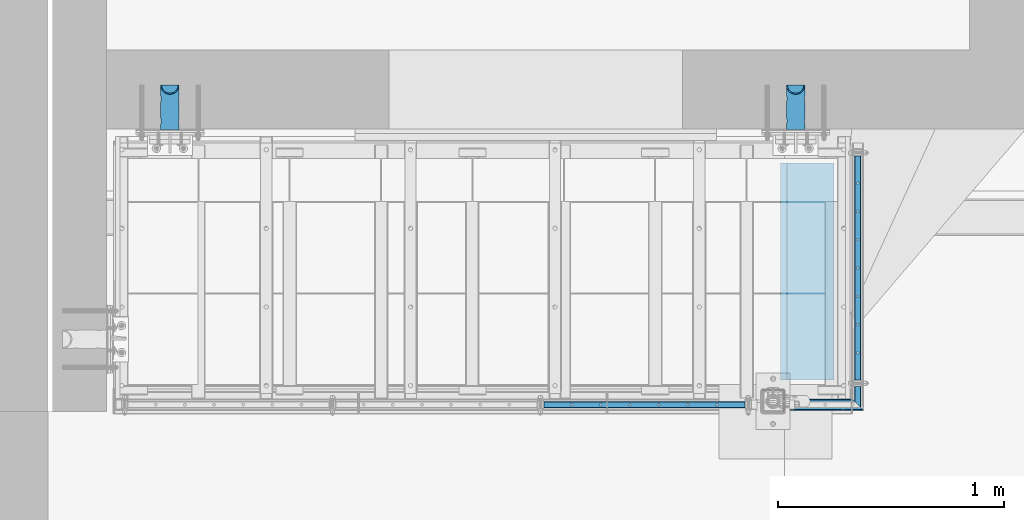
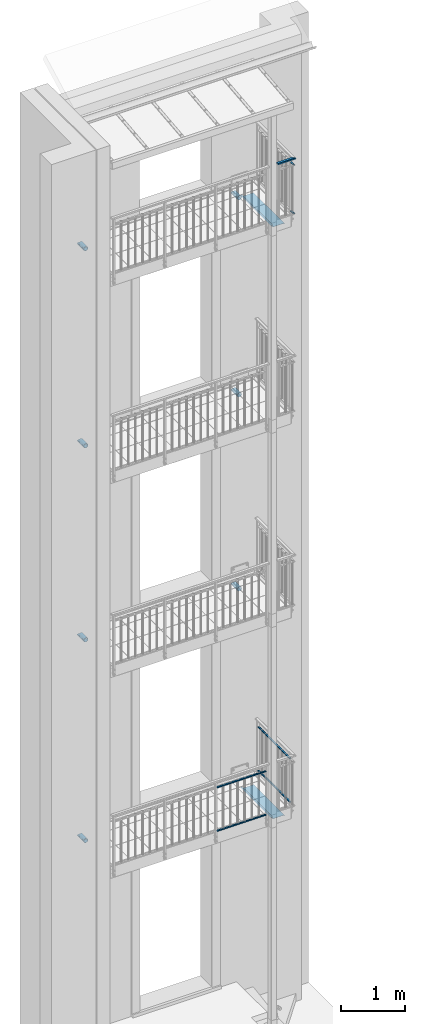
# One storey, part 53 of 162: 16 beams, 64 openings.
"""IFC2X3 building model written with IfcOpenShell, lengths in millimetres."""

from ifc_helpers import new_model, entity, si_unit, converted_unit, frame, frame_2d, origin, origin_with_axes, origin_2d, origin_2d_with_axis, place, context, project, spatial, polyline, hollow_rectangle, circle, hollow_circle, outline, extrude, clip, halfspace, material, element, save


model = new_model("IFC2X3")

# Units and contexts
model_context = context("Model", 3, precision=1e-09, world=origin_with_axes())
ifc_project = project(units=[si_unit("LENGTHUNIT", "METRE", prefix="MILLI"), si_unit("AREAUNIT", "SQUARE_METRE"), si_unit("VOLUMEUNIT", "CUBIC_METRE"), converted_unit("PLANEANGLEUNIT", "DEGREE", entity("IfcPlaneAngleMeasure", 0.01745329), si_unit("PLANEANGLEUNIT", "RADIAN"), dimensions=[0, 0, 0, 0, 0, 0, 0])], contexts=[model_context])

# Site, building, storey
site_placement = place(None, origin_with_axes())
site = spatial("IfcSite", under=ifc_project, at=site_placement, Name="Hermannstra?e 1a, 60318 Frankfurt", CompositionType="ELEMENT")
building_placement = place(site_placement, origin_with_axes())
building = spatial("IfcBuilding", under=site, at=building_placement, Name="Struktur 1", CompositionType="ELEMENT")
storey_placement = place(building_placement, origin_with_axes())
storey = spatial("IfcBuildingStorey", under=building, at=storey_placement, Name="Default Storey", CompositionType="ELEMENT", Elevation=0.0)

# Beam, opening
ifc_material_1 = material(Name="S235JR")
beam_1_placement = place(None, frame((5889.540421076, 1515.609373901, 16321.999), z_axis=(-1.0, 0.0, 0.0), x_axis=(0.0, 0.0, -1.0)))
beam_1 = element("IfcBeam", 1, at=beam_1_placement, inside=storey, material=ifc_material_1, Name="-", ObjectType="-", context=model_context, shape_type="Clipping", body=[
    clip(extrude(hollow_rectangle(XDim=30.0, YDim=50.0, WallThickness=3.0, InnerFilletRadius=3.0, OuterFilletRadius=6.0, at=origin_2d()), origin(), (0.0, 0.0, 1.0), 341.231056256), halfspace(frame((16321.999, -2166.349288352, 2207.581758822), z_axis=(0.0, 0.707106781, 0.707106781), x_axis=(0.0, 0.707106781, -0.707106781)), True)),
])
opening_1_placement = place(beam_1_placement, frame((11.5, 0.0, 306.231056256), z_axis=(1.0, 0.0, 0.0), x_axis=(0.0, 0.0, 1.0)))
element("IfcOpeningElement", 2, at=opening_1_placement, cuts=beam_1, ObjectType="Opening", context=model_context, shape_type="SweptSolid", body=[
    extrude(circle(Radius=5.001, at=frame_2d((5.0, 0.0), x_axis=(1.0, 0.0))), origin(), (0.0, 0.0, 1.0), 4.0),
])

beam_2_placement = place(None, frame((5848.30936482, 1490.114276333, 15266.999), z_axis=(0.0, 1.0, 0.0), x_axis=(0.0, 0.0, -1.0)))
beam_2 = element("IfcBeam", 3, at=beam_2_placement, inside=storey, material=ifc_material_1, Name="-", ObjectType="-", context=model_context, shape_type="Clipping", body=[
    clip(extrude(hollow_rectangle(XDim=20.0, YDim=30.0, WallThickness=2.0, InnerFilletRadius=2.0, OuterFilletRadius=4.0, at=origin_2d()), origin(), (0.0, 0.0, 1.0), 105.495097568), halfspace(frame((15266.999, 2166.349288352, 2191.845800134), z_axis=(0.0, -0.707106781, 0.707106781), x_axis=(0.0, 0.707106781, 0.707106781)), True)),
])
opening_2_placement = place(beam_2_placement, frame((0.0, -12.5, 10.496511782), z_axis=(0.0, -1.0, 0.0), x_axis=(0.0, 0.0, 1.0)))
element("IfcOpeningElement", 4, at=opening_2_placement, cuts=beam_2, ObjectType="Opening", context=model_context, shape_type="SweptSolid", body=[
    extrude(circle(Radius=4.001, at=frame_2d((10.0, 0.0), x_axis=(1.0, 0.0))), origin(), (0.0, 0.0, 1.0), 3.0),
])

beam_3_placement = place(None, frame((5848.30936482, 1490.114276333, 16196.999), z_axis=(0.0, 1.0, 0.0), x_axis=(0.0, 0.0, -1.0)))
beam_3 = element("IfcBeam", 5, at=beam_3_placement, inside=storey, material=ifc_material_1, Name="-", ObjectType="-", context=model_context, shape_type="Clipping", body=[
    clip(extrude(hollow_rectangle(XDim=20.0, YDim=30.0, WallThickness=2.0, InnerFilletRadius=2.0, OuterFilletRadius=4.0, at=origin_2d()), origin(), (0.0, 0.0, 1.0), 105.495097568), halfspace(frame((16196.999, 2166.349288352, 2191.845800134), z_axis=(0.0, -0.707106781, 0.707106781), x_axis=(0.0, 0.707106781, 0.707106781)), True)),
])
opening_3_placement = place(beam_3_placement, frame((0.0, -12.5, 10.495097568), z_axis=(0.0, -1.0, 0.0), x_axis=(0.0, 0.0, 1.0)))
element("IfcOpeningElement", 6, at=opening_3_placement, cuts=beam_3, ObjectType="Opening", context=model_context, shape_type="SweptSolid", body=[
    extrude(circle(Radius=4.001, at=frame_2d((10.0, 0.0), x_axis=(1.0, 0.0))), origin(), (0.0, 0.0, 1.0), 3.0),
])

# Beam
ifc_material_2 = material(Name="Alu")
beam_4_placement = place(None, frame((5742.80936482, 1625.609373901, 15033.999), z_axis=(0.0, -1.0, 0.0), x_axis=(1.0, 0.0, 0.0)))
element("IfcBeam", 7, at=beam_4_placement, inside=storey, material=ifc_material_2, Name="-", ObjectType="-", context=model_context, shape_type="SweptSolid", body=[
    extrude(outline(polyline([(-235.449159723, 49.122617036), (-210.0, 52.699263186), (-210.0, 18.0), (-2.0, 18.0), (-2.0, 0.0), (0.0, 0.0), (0.0, 20.0), (-208.0, 20.0), (-208.0, 55.0), (-235.727505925, 51.103153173), (-235.449159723, 49.122617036)])), origin(), (0.0, 0.0, -1.0), 960.0),
])

# Beam, openings
beam_5_placement = place(None, frame((5573.30936482, 2730.609373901, 11169.999), z_axis=(0.0, 1.0, 0.0), x_axis=(0.0, 0.0, 1.0)))
beam_5 = element("IfcBeam", 8, at=beam_5_placement, inside=storey, material=ifc_material_1, Name="-", ObjectType="-", context=model_context, shape_type="SweptSolid", body=[
    extrude(hollow_circle(Radius=41.25, WallThickness=5.0, at=origin_2d()), origin(), (0.0, 0.0, 1.0), 200.0),
])
opening_4_placement = place(beam_5_placement, frame((-36.368270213, -141.35, 236.366855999), z_axis=(0.0, -1.0, 0.0), x_axis=(0.707106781, 0.0, -0.707106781)))
element("IfcOpeningElement", 9, at=opening_4_placement, cuts=beam_5, ObjectType="Opening", context=model_context, shape_type="SweptSolid", body=[
    extrude(outline(polyline([(0.0, 0.0), (179.585201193, 0.0), (64.987133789, 114.598067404), (0.0, 0.0)])), origin(), (0.0, 0.0, -1.0), 282.7),
])
opening_5_placement = place(beam_5_placement, frame((0.0, -32.727655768, 100.0), z_axis=(0.0, -1.0, 0.0), x_axis=(0.0, 0.0, -1.0)))
element("IfcOpeningElement", 10, at=opening_5_placement, cuts=beam_5, ObjectType="Opening", context=model_context, shape_type="SweptSolid", body=[
    extrude(circle(Radius=15.001, at=frame_2d((60.0, 0.0), x_axis=(1.0, 0.0))), origin(), (0.0, 0.0, 1.0), 9.022344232),
])
opening_6_placement = place(beam_5_placement, frame((0.0, -32.727655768, 100.0), z_axis=(0.0, -1.0, 0.0), x_axis=(0.0, 0.0, -1.0)))
element("IfcOpeningElement", 11, at=opening_6_placement, cuts=beam_5, ObjectType="Opening", context=model_context, shape_type="SweptSolid", body=[
    extrude(circle(Radius=15.001, at=frame_2d((-40.0, 0.0), x_axis=(1.0, 0.0))), origin(), (0.0, 0.0, 1.0), 9.022344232),
])
opening_7_placement = place(beam_5_placement, frame((0.0, 32.727655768, 55.001), z_axis=(0.0, -1.0, 0.0), x_axis=(1.0, 0.0, 0.0)))
element("IfcOpeningElement", 12, at=opening_7_placement, cuts=beam_5, ObjectType="Opening", context=model_context, shape_type="SweptSolid", body=[
    extrude(circle(Radius=15.001, at=frame_2d((0.0, -15.001), x_axis=(1.0, 0.0))), origin(), (0.0, 0.0, -1.0), 9.022344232),
])
opening_8_placement = place(beam_5_placement, frame((0.0, 32.727655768, 155.001), z_axis=(0.0, -1.0, 0.0), x_axis=(1.0, 0.0, 0.0)))
element("IfcOpeningElement", 13, at=opening_8_placement, cuts=beam_5, ObjectType="Opening", context=model_context, shape_type="SweptSolid", body=[
    extrude(circle(Radius=15.001, at=frame_2d((0.0, -15.001), x_axis=(1.0, 0.0))), origin(), (0.0, 0.0, -1.0), 9.022344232),
])

beam_6_placement = place(None, frame((2803.310071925, 2730.610081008, 14926.999), z_axis=(0.0, 1.0, 0.0), x_axis=(0.0, 0.0, 1.0)))
beam_6 = element("IfcBeam", 14, at=beam_6_placement, inside=storey, material=ifc_material_1, Name="-", ObjectType="-", context=model_context, shape_type="SweptSolid", body=[
    extrude(hollow_circle(Radius=41.25, WallThickness=5.0, at=origin_2d()), origin(), (0.0, 0.0, 1.0), 200.0),
])
opening_9_placement = place(beam_6_placement, frame((-36.368270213, -141.35, 236.366855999), z_axis=(0.0, -1.0, 0.0), x_axis=(0.707106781, 0.0, -0.707106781)))
element("IfcOpeningElement", 15, at=opening_9_placement, cuts=beam_6, ObjectType="Opening", context=model_context, shape_type="SweptSolid", body=[
    extrude(outline(polyline([(0.0, 0.0), (179.585201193, 0.0), (64.987133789, 114.598067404), (0.0, 0.0)])), origin(), (0.0, 0.0, -1.0), 282.7),
])
opening_10_placement = place(beam_6_placement, frame((0.0, -32.727655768, 100.0), z_axis=(0.0, -1.0, 0.0), x_axis=(0.0, 0.0, -1.0)))
element("IfcOpeningElement", 16, at=opening_10_placement, cuts=beam_6, ObjectType="Opening", context=model_context, shape_type="SweptSolid", body=[
    extrude(circle(Radius=15.001, at=frame_2d((60.0, 0.0), x_axis=(1.0, 0.0))), origin(), (0.0, 0.0, 1.0), 9.022344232),
])
opening_11_placement = place(beam_6_placement, frame((0.0, -32.727655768, 100.0), z_axis=(0.0, -1.0, 0.0), x_axis=(0.0, 0.0, -1.0)))
element("IfcOpeningElement", 17, at=opening_11_placement, cuts=beam_6, ObjectType="Opening", context=model_context, shape_type="SweptSolid", body=[
    extrude(circle(Radius=15.001, at=frame_2d((-40.0, 0.0), x_axis=(1.0, 0.0))), origin(), (0.0, 0.0, 1.0), 9.022344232),
])
opening_12_placement = place(beam_6_placement, frame((0.0, 32.727655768, 55.001), z_axis=(0.0, -1.0, 0.0), x_axis=(1.0, 0.0, 0.0)))
element("IfcOpeningElement", 18, at=opening_12_placement, cuts=beam_6, ObjectType="Opening", context=model_context, shape_type="SweptSolid", body=[
    extrude(circle(Radius=15.001, at=frame_2d((0.0, -15.001), x_axis=(1.0, 0.0))), origin(), (0.0, 0.0, -1.0), 9.022344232),
])
opening_13_placement = place(beam_6_placement, frame((0.0, 32.727655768, 155.001), z_axis=(0.0, -1.0, 0.0), x_axis=(1.0, 0.0, 0.0)))
element("IfcOpeningElement", 19, at=opening_13_placement, cuts=beam_6, ObjectType="Opening", context=model_context, shape_type="SweptSolid", body=[
    extrude(circle(Radius=15.001, at=frame_2d((0.0, -15.001), x_axis=(1.0, 0.0))), origin(), (0.0, 0.0, -1.0), 9.022344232),
])

beam_7_placement = place(None, frame((5573.310071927, 2730.610081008, 14926.999), z_axis=(0.0, 1.0, 0.0), x_axis=(0.0, 0.0, 1.0)))
beam_7 = element("IfcBeam", 20, at=beam_7_placement, inside=storey, material=ifc_material_1, Name="-", ObjectType="-", context=model_context, shape_type="SweptSolid", body=[
    extrude(hollow_circle(Radius=41.25, WallThickness=5.0, at=origin_2d()), origin(), (0.0, 0.0, 1.0), 200.0),
])
opening_14_placement = place(beam_7_placement, frame((-36.368270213, -141.35, 236.366855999), z_axis=(0.0, -1.0, 0.0), x_axis=(0.707106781, 0.0, -0.707106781)))
element("IfcOpeningElement", 21, at=opening_14_placement, cuts=beam_7, ObjectType="Opening", context=model_context, shape_type="SweptSolid", body=[
    extrude(outline(polyline([(0.0, 0.0), (179.585201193, 0.0), (64.987133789, 114.598067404), (0.0, 0.0)])), origin(), (0.0, 0.0, -1.0), 282.7),
])
opening_15_placement = place(beam_7_placement, frame((0.0, -32.727655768, 100.0), z_axis=(0.0, -1.0, 0.0), x_axis=(0.0, 0.0, -1.0)))
element("IfcOpeningElement", 22, at=opening_15_placement, cuts=beam_7, ObjectType="Opening", context=model_context, shape_type="SweptSolid", body=[
    extrude(circle(Radius=15.001, at=frame_2d((60.0, 0.0), x_axis=(1.0, 0.0))), origin(), (0.0, 0.0, 1.0), 9.022344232),
])
opening_16_placement = place(beam_7_placement, frame((0.0, -32.727655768, 100.0), z_axis=(0.0, -1.0, 0.0), x_axis=(0.0, 0.0, -1.0)))
element("IfcOpeningElement", 23, at=opening_16_placement, cuts=beam_7, ObjectType="Opening", context=model_context, shape_type="SweptSolid", body=[
    extrude(circle(Radius=15.001, at=frame_2d((-40.0, 0.0), x_axis=(1.0, 0.0))), origin(), (0.0, 0.0, 1.0), 9.022344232),
])
opening_17_placement = place(beam_7_placement, frame((0.0, 32.727655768, 55.001), z_axis=(0.0, -1.0, 0.0), x_axis=(1.0, 0.0, 0.0)))
element("IfcOpeningElement", 24, at=opening_17_placement, cuts=beam_7, ObjectType="Opening", context=model_context, shape_type="SweptSolid", body=[
    extrude(circle(Radius=15.001, at=frame_2d((0.0, -15.001), x_axis=(1.0, 0.0))), origin(), (0.0, 0.0, -1.0), 9.022344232),
])
opening_18_placement = place(beam_7_placement, frame((0.0, 32.727655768, 155.001), z_axis=(0.0, -1.0, 0.0), x_axis=(1.0, 0.0, 0.0)))
element("IfcOpeningElement", 25, at=opening_18_placement, cuts=beam_7, ObjectType="Opening", context=model_context, shape_type="SweptSolid", body=[
    extrude(circle(Radius=15.001, at=frame_2d((0.0, -15.001), x_axis=(1.0, 0.0))), origin(), (0.0, 0.0, -1.0), 9.022344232),
])

beam_8_placement = place(None, frame((2803.308657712, 2730.608666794, 7470.0), z_axis=(0.0, 1.0, 0.0), x_axis=(0.0, 0.0, 1.0)))
beam_8 = element("IfcBeam", 26, at=beam_8_placement, inside=storey, material=ifc_material_1, Name="-", ObjectType="-", context=model_context, shape_type="SweptSolid", body=[
    extrude(hollow_circle(Radius=41.25, WallThickness=5.0, at=origin_2d()), origin(), (0.0, 0.0, 1.0), 200.0),
])
opening_19_placement = place(beam_8_placement, frame((-36.368270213, -141.35, 236.366855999), z_axis=(0.0, -1.0, 0.0), x_axis=(0.707106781, 0.0, -0.707106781)))
element("IfcOpeningElement", 27, at=opening_19_placement, cuts=beam_8, ObjectType="Opening", context=model_context, shape_type="SweptSolid", body=[
    extrude(outline(polyline([(0.0, 0.0), (179.585201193, 0.0), (64.987133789, 114.598067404), (0.0, 0.0)])), origin(), (0.0, 0.0, -1.0), 282.7),
])
opening_20_placement = place(beam_8_placement, frame((0.0, -32.727655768, 100.0), z_axis=(0.0, -1.0, 0.0), x_axis=(0.0, 0.0, -1.0)))
element("IfcOpeningElement", 28, at=opening_20_placement, cuts=beam_8, ObjectType="Opening", context=model_context, shape_type="SweptSolid", body=[
    extrude(circle(Radius=15.001, at=frame_2d((60.0, 0.0), x_axis=(1.0, 0.0))), origin(), (0.0, 0.0, 1.0), 9.022344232),
])
opening_21_placement = place(beam_8_placement, frame((0.0, -32.727655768, 100.0), z_axis=(0.0, -1.0, 0.0), x_axis=(0.0, 0.0, -1.0)))
element("IfcOpeningElement", 29, at=opening_21_placement, cuts=beam_8, ObjectType="Opening", context=model_context, shape_type="SweptSolid", body=[
    extrude(circle(Radius=15.001, at=frame_2d((-40.0, 0.0), x_axis=(1.0, 0.0))), origin(), (0.0, 0.0, 1.0), 9.022344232),
])
opening_22_placement = place(beam_8_placement, frame((0.0, 32.727655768, 55.001), z_axis=(0.0, -1.0, 0.0), x_axis=(1.0, 0.0, 0.0)))
element("IfcOpeningElement", 30, at=opening_22_placement, cuts=beam_8, ObjectType="Opening", context=model_context, shape_type="SweptSolid", body=[
    extrude(circle(Radius=15.001, at=frame_2d((0.0, -15.001), x_axis=(1.0, 0.0))), origin(), (0.0, 0.0, -1.0), 9.022344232),
])
opening_23_placement = place(beam_8_placement, frame((0.0, 32.727655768, 155.001), z_axis=(0.0, -1.0, 0.0), x_axis=(1.0, 0.0, 0.0)))
element("IfcOpeningElement", 31, at=opening_23_placement, cuts=beam_8, ObjectType="Opening", context=model_context, shape_type="SweptSolid", body=[
    extrude(circle(Radius=15.001, at=frame_2d((0.0, -15.001), x_axis=(1.0, 0.0))), origin(), (0.0, 0.0, -1.0), 9.022344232),
])

beam_9_placement = place(None, frame((5573.308657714, 2730.608666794, 7470.0), z_axis=(0.0, 1.0, 0.0), x_axis=(0.0, 0.0, 1.0)))
beam_9 = element("IfcBeam", 32, at=beam_9_placement, inside=storey, material=ifc_material_1, Name="-", ObjectType="-", context=model_context, shape_type="SweptSolid", body=[
    extrude(hollow_circle(Radius=41.25, WallThickness=5.0, at=origin_2d()), origin(), (0.0, 0.0, 1.0), 200.0),
])
opening_24_placement = place(beam_9_placement, frame((-36.368270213, -141.35, 236.366855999), z_axis=(0.0, -1.0, 0.0), x_axis=(0.707106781, 0.0, -0.707106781)))
element("IfcOpeningElement", 33, at=opening_24_placement, cuts=beam_9, ObjectType="Opening", context=model_context, shape_type="SweptSolid", body=[
    extrude(outline(polyline([(0.0, 0.0), (179.585201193, 0.0), (64.987133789, 114.598067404), (0.0, 0.0)])), origin(), (0.0, 0.0, -1.0), 282.7),
])
opening_25_placement = place(beam_9_placement, frame((0.0, -32.727655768, 100.0), z_axis=(0.0, -1.0, 0.0), x_axis=(0.0, 0.0, -1.0)))
element("IfcOpeningElement", 34, at=opening_25_placement, cuts=beam_9, ObjectType="Opening", context=model_context, shape_type="SweptSolid", body=[
    extrude(circle(Radius=15.001, at=frame_2d((60.0, 0.0), x_axis=(1.0, 0.0))), origin(), (0.0, 0.0, 1.0), 9.022344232),
])
opening_26_placement = place(beam_9_placement, frame((0.0, -32.727655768, 100.0), z_axis=(0.0, -1.0, 0.0), x_axis=(0.0, 0.0, -1.0)))
element("IfcOpeningElement", 35, at=opening_26_placement, cuts=beam_9, ObjectType="Opening", context=model_context, shape_type="SweptSolid", body=[
    extrude(circle(Radius=15.001, at=frame_2d((-40.0, 0.0), x_axis=(1.0, 0.0))), origin(), (0.0, 0.0, 1.0), 9.022344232),
])
opening_27_placement = place(beam_9_placement, frame((0.0, 32.727655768, 55.001), z_axis=(0.0, -1.0, 0.0), x_axis=(1.0, 0.0, 0.0)))
element("IfcOpeningElement", 36, at=opening_27_placement, cuts=beam_9, ObjectType="Opening", context=model_context, shape_type="SweptSolid", body=[
    extrude(circle(Radius=15.001, at=frame_2d((0.0, -15.001), x_axis=(1.0, 0.0))), origin(), (0.0, 0.0, -1.0), 9.022344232),
])
opening_28_placement = place(beam_9_placement, frame((0.0, 32.727655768, 155.001), z_axis=(0.0, -1.0, 0.0), x_axis=(1.0, 0.0, 0.0)))
element("IfcOpeningElement", 37, at=opening_28_placement, cuts=beam_9, ObjectType="Opening", context=model_context, shape_type="SweptSolid", body=[
    extrude(circle(Radius=15.001, at=frame_2d((0.0, -15.001), x_axis=(1.0, 0.0))), origin(), (0.0, 0.0, -1.0), 9.022344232),
])

beam_10_placement = place(None, frame((2803.310071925, 2730.610081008, 3645.0), z_axis=(0.0, 1.0, 0.0), x_axis=(0.0, 0.0, 1.0)))
beam_10 = element("IfcBeam", 38, at=beam_10_placement, inside=storey, material=ifc_material_1, Name="-", ObjectType="-", context=model_context, shape_type="SweptSolid", body=[
    extrude(hollow_circle(Radius=41.25, WallThickness=5.0, at=origin_2d()), origin(), (0.0, 0.0, 1.0), 200.0),
])
opening_29_placement = place(beam_10_placement, frame((-36.368270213, -141.35, 236.366855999), z_axis=(0.0, -1.0, 0.0), x_axis=(0.707106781, 0.0, -0.707106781)))
element("IfcOpeningElement", 39, at=opening_29_placement, cuts=beam_10, ObjectType="Opening", context=model_context, shape_type="SweptSolid", body=[
    extrude(outline(polyline([(0.0, 0.0), (179.585201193, 0.0), (64.987133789, 114.598067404), (0.0, 0.0)])), origin(), (0.0, 0.0, -1.0), 282.7),
])
opening_30_placement = place(beam_10_placement, frame((0.0, -32.727655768, 100.0), z_axis=(0.0, -1.0, 0.0), x_axis=(0.0, 0.0, -1.0)))
element("IfcOpeningElement", 40, at=opening_30_placement, cuts=beam_10, ObjectType="Opening", context=model_context, shape_type="SweptSolid", body=[
    extrude(circle(Radius=15.001, at=frame_2d((60.0, 0.0), x_axis=(1.0, 0.0))), origin(), (0.0, 0.0, 1.0), 9.022344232),
])
opening_31_placement = place(beam_10_placement, frame((0.0, -32.727655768, 100.0), z_axis=(0.0, -1.0, 0.0), x_axis=(0.0, 0.0, -1.0)))
element("IfcOpeningElement", 41, at=opening_31_placement, cuts=beam_10, ObjectType="Opening", context=model_context, shape_type="SweptSolid", body=[
    extrude(circle(Radius=15.001, at=frame_2d((-40.0, 0.0), x_axis=(1.0, 0.0))), origin(), (0.0, 0.0, 1.0), 9.022344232),
])
opening_32_placement = place(beam_10_placement, frame((0.0, 32.727655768, 55.001), z_axis=(0.0, -1.0, 0.0), x_axis=(1.0, 0.0, 0.0)))
element("IfcOpeningElement", 42, at=opening_32_placement, cuts=beam_10, ObjectType="Opening", context=model_context, shape_type="SweptSolid", body=[
    extrude(circle(Radius=15.001, at=frame_2d((0.0, -15.001), x_axis=(1.0, 0.0))), origin(), (0.0, 0.0, -1.0), 9.022344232),
])
opening_33_placement = place(beam_10_placement, frame((0.0, 32.727655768, 155.001), z_axis=(0.0, -1.0, 0.0), x_axis=(1.0, 0.0, 0.0)))
element("IfcOpeningElement", 43, at=opening_33_placement, cuts=beam_10, ObjectType="Opening", context=model_context, shape_type="SweptSolid", body=[
    extrude(circle(Radius=15.001, at=frame_2d((0.0, -15.001), x_axis=(1.0, 0.0))), origin(), (0.0, 0.0, -1.0), 9.022344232),
])

beam_11_placement = place(None, frame((2803.309364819, 2730.609373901, 11169.999), z_axis=(0.0, 1.0, 0.0), x_axis=(0.0, 0.0, 1.0)))
beam_11 = element("IfcBeam", 44, at=beam_11_placement, inside=storey, material=ifc_material_1, Name="-", ObjectType="-", context=model_context, shape_type="SweptSolid", body=[
    extrude(hollow_circle(Radius=41.25, WallThickness=5.0, at=origin_2d()), origin(), (0.0, 0.0, 1.0), 200.0),
])
opening_34_placement = place(beam_11_placement, frame((-36.368270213, -141.35, 236.366855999), z_axis=(0.0, -1.0, 0.0), x_axis=(0.707106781, 0.0, -0.707106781)))
element("IfcOpeningElement", 45, at=opening_34_placement, cuts=beam_11, ObjectType="Opening", context=model_context, shape_type="SweptSolid", body=[
    extrude(outline(polyline([(0.0, 0.0), (179.585201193, 0.0), (64.987133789, 114.598067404), (0.0, 0.0)])), origin(), (0.0, 0.0, -1.0), 282.7),
])
opening_35_placement = place(beam_11_placement, frame((0.0, -32.727655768, 100.0), z_axis=(0.0, -1.0, 0.0), x_axis=(0.0, 0.0, -1.0)))
element("IfcOpeningElement", 46, at=opening_35_placement, cuts=beam_11, ObjectType="Opening", context=model_context, shape_type="SweptSolid", body=[
    extrude(circle(Radius=15.001, at=frame_2d((60.0, 0.0), x_axis=(1.0, 0.0))), origin(), (0.0, 0.0, 1.0), 9.022344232),
])
opening_36_placement = place(beam_11_placement, frame((0.0, -32.727655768, 100.0), z_axis=(0.0, -1.0, 0.0), x_axis=(0.0, 0.0, -1.0)))
element("IfcOpeningElement", 47, at=opening_36_placement, cuts=beam_11, ObjectType="Opening", context=model_context, shape_type="SweptSolid", body=[
    extrude(circle(Radius=15.001, at=frame_2d((-40.0, 0.0), x_axis=(1.0, 0.0))), origin(), (0.0, 0.0, 1.0), 9.022344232),
])
opening_37_placement = place(beam_11_placement, frame((0.0, 32.727655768, 55.001), z_axis=(0.0, -1.0, 0.0), x_axis=(1.0, 0.0, 0.0)))
element("IfcOpeningElement", 48, at=opening_37_placement, cuts=beam_11, ObjectType="Opening", context=model_context, shape_type="SweptSolid", body=[
    extrude(circle(Radius=15.001, at=frame_2d((0.0, -15.001), x_axis=(1.0, 0.0))), origin(), (0.0, 0.0, -1.0), 9.022344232),
])
opening_38_placement = place(beam_11_placement, frame((0.0, 32.727655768, 155.001), z_axis=(0.0, -1.0, 0.0), x_axis=(1.0, 0.0, 0.0)))
element("IfcOpeningElement", 49, at=opening_38_placement, cuts=beam_11, ObjectType="Opening", context=model_context, shape_type="SweptSolid", body=[
    extrude(circle(Radius=15.001, at=frame_2d((0.0, -15.001), x_axis=(1.0, 0.0))), origin(), (0.0, 0.0, -1.0), 9.022344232),
])

# Beam
beam_12_placement = place(None, frame((5742.80936482, 1625.609373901, 3752.0), z_axis=(0.0, -1.0, 0.0), x_axis=(1.0, 0.0, 0.0)))
element("IfcBeam", 50, at=beam_12_placement, inside=storey, material=ifc_material_2, Name="-", ObjectType="-", context=model_context, shape_type="SweptSolid", body=[
    extrude(outline(polyline([(-235.449159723, 49.122617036), (-210.0, 52.699263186), (-210.0, 18.0), (-2.0, 18.0), (-2.0, 0.0), (0.0, 0.0), (0.0, 20.0), (-208.0, 20.0), (-208.0, 55.0), (-235.727505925, 51.103153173), (-235.449159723, 49.122617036)])), origin(), (0.0, 0.0, -1.0), 960.0),
])

# Beam, openings
beam_13_placement = place(None, frame((5848.30936482, 2615.609373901, 4815.0), z_axis=(0.0, 1.0, 0.0), x_axis=(0.0, 0.0, -1.0)))
beam_13 = element("IfcBeam", 51, at=beam_13_placement, inside=storey, material=ifc_material_1, Name="-", ObjectType="-", context=model_context, shape_type="SweptSolid", body=[
    extrude(hollow_rectangle(XDim=20.0, YDim=30.0, WallThickness=2.0, InnerFilletRadius=2.0, OuterFilletRadius=4.0, at=origin_2d()), origin(), (0.0, 0.0, -1.0), 990.0),
])
opening_39_placement = place(beam_13_placement, frame((7.5, 0.0, -495.0), z_axis=(1.0, 0.0, 0.0), x_axis=(0.0, -1.0, 0.0)))
element("IfcOpeningElement", 52, at=opening_39_placement, cuts=beam_13, ObjectType="Opening", context=model_context, shape_type="SweptSolid", body=[
    extrude(circle(Radius=6.051, at=origin_2d_with_axis()), origin(), (0.0, 0.0, 1.0), 3.0),
])
opening_40_placement = place(beam_13_placement, frame((7.5, 0.0, -870.75), z_axis=(1.0, 0.0, 0.0), x_axis=(0.0, -1.0, 0.0)))
element("IfcOpeningElement", 53, at=opening_40_placement, cuts=beam_13, ObjectType="Opening", context=model_context, shape_type="SweptSolid", body=[
    extrude(circle(Radius=6.051, at=origin_2d_with_axis()), origin(), (0.0, 0.0, 1.0), 3.0),
])
opening_41_placement = place(beam_13_placement, frame((7.5, 0.0, -620.25), z_axis=(1.0, 0.0, 0.0), x_axis=(0.0, -1.0, 0.0)))
element("IfcOpeningElement", 54, at=opening_41_placement, cuts=beam_13, ObjectType="Opening", context=model_context, shape_type="SweptSolid", body=[
    extrude(circle(Radius=6.051, at=origin_2d_with_axis()), origin(), (0.0, 0.0, 1.0), 3.0),
])
opening_42_placement = place(beam_13_placement, frame((7.5, 0.0, -745.5), z_axis=(1.0, 0.0, 0.0), x_axis=(0.0, -1.0, 0.0)))
element("IfcOpeningElement", 55, at=opening_42_placement, cuts=beam_13, ObjectType="Opening", context=model_context, shape_type="SweptSolid", body=[
    extrude(circle(Radius=6.051, at=origin_2d_with_axis()), origin(), (0.0, 0.0, 1.0), 3.0),
])
opening_43_placement = place(beam_13_placement, frame((7.5, 0.0, -244.5), z_axis=(1.0, 0.0, 0.0), x_axis=(0.0, -1.0, 0.0)))
element("IfcOpeningElement", 56, at=opening_43_placement, cuts=beam_13, ObjectType="Opening", context=model_context, shape_type="SweptSolid", body=[
    extrude(circle(Radius=6.051, at=origin_2d_with_axis()), origin(), (0.0, 0.0, 1.0), 3.0),
])
opening_44_placement = place(beam_13_placement, frame((7.5, 0.0, -369.75), z_axis=(1.0, 0.0, 0.0), x_axis=(0.0, -1.0, 0.0)))
element("IfcOpeningElement", 57, at=opening_44_placement, cuts=beam_13, ObjectType="Opening", context=model_context, shape_type="SweptSolid", body=[
    extrude(circle(Radius=6.051, at=origin_2d_with_axis()), origin(), (0.0, 0.0, 1.0), 3.0),
])
opening_45_placement = place(beam_13_placement, frame((7.5, 0.0, -119.25), z_axis=(1.0, 0.0, 0.0), x_axis=(0.0, -1.0, 0.0)))
element("IfcOpeningElement", 58, at=opening_45_placement, cuts=beam_13, ObjectType="Opening", context=model_context, shape_type="SweptSolid", body=[
    extrude(circle(Radius=6.051, at=origin_2d_with_axis()), origin(), (0.0, 0.0, 1.0), 3.0),
])

beam_14_placement = place(None, frame((5848.30936482, 2615.609373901, 3985.0), z_axis=(0.0, 1.0, 0.0), x_axis=(0.0, 0.0, -1.0)))
beam_14 = element("IfcBeam", 59, at=beam_14_placement, inside=storey, material=ifc_material_1, Name="-", ObjectType="-", context=model_context, shape_type="SweptSolid", body=[
    extrude(hollow_rectangle(XDim=20.0, YDim=30.0, WallThickness=2.0, InnerFilletRadius=2.0, OuterFilletRadius=4.0, at=origin_2d()), origin(), (0.0, 0.0, -1.0), 990.0),
])
opening_46_placement = place(beam_14_placement, frame((-7.5, 0.0, -870.75), z_axis=(-1.0, 0.0, 0.0), x_axis=(0.0, 1.0, 0.0)))
element("IfcOpeningElement", 60, at=opening_46_placement, cuts=beam_14, ObjectType="Opening", context=model_context, shape_type="SweptSolid", body=[
    extrude(circle(Radius=6.051, at=origin_2d_with_axis()), origin(), (0.0, 0.0, 1.0), 3.0),
])
opening_47_placement = place(beam_14_placement, frame((-7.5, 0.0, -745.5), z_axis=(-1.0, 0.0, 0.0), x_axis=(0.0, 1.0, 0.0)))
element("IfcOpeningElement", 61, at=opening_47_placement, cuts=beam_14, ObjectType="Opening", context=model_context, shape_type="SweptSolid", body=[
    extrude(circle(Radius=6.051, at=origin_2d_with_axis()), origin(), (0.0, 0.0, 1.0), 3.0),
])
opening_48_placement = place(beam_14_placement, frame((-7.5, 0.0, -620.25), z_axis=(-1.0, 0.0, 0.0), x_axis=(0.0, 1.0, 0.0)))
element("IfcOpeningElement", 62, at=opening_48_placement, cuts=beam_14, ObjectType="Opening", context=model_context, shape_type="SweptSolid", body=[
    extrude(circle(Radius=6.051, at=origin_2d_with_axis()), origin(), (0.0, 0.0, 1.0), 3.0),
])
opening_49_placement = place(beam_14_placement, frame((-7.5, 0.0, -495.0), z_axis=(-1.0, 0.0, 0.0), x_axis=(0.0, 1.0, 0.0)))
element("IfcOpeningElement", 63, at=opening_49_placement, cuts=beam_14, ObjectType="Opening", context=model_context, shape_type="SweptSolid", body=[
    extrude(circle(Radius=6.051, at=origin_2d_with_axis()), origin(), (0.0, 0.0, 1.0), 3.0),
])
opening_50_placement = place(beam_14_placement, frame((-7.5, 0.0, -369.75), z_axis=(-1.0, 0.0, 0.0), x_axis=(0.0, 1.0, 0.0)))
element("IfcOpeningElement", 64, at=opening_50_placement, cuts=beam_14, ObjectType="Opening", context=model_context, shape_type="SweptSolid", body=[
    extrude(circle(Radius=6.051, at=origin_2d_with_axis()), origin(), (0.0, 0.0, 1.0), 3.0),
])
opening_51_placement = place(beam_14_placement, frame((-7.5, 0.0, -119.25), z_axis=(-1.0, 0.0, 0.0), x_axis=(0.0, 1.0, 0.0)))
element("IfcOpeningElement", 65, at=opening_51_placement, cuts=beam_14, ObjectType="Opening", context=model_context, shape_type="SweptSolid", body=[
    extrude(circle(Radius=6.051, at=origin_2d_with_axis()), origin(), (0.0, 0.0, 1.0), 3.0),
])
opening_52_placement = place(beam_14_placement, frame((-7.5, 0.0, -244.5), z_axis=(-1.0, 0.0, 0.0), x_axis=(0.0, 1.0, 0.0)))
element("IfcOpeningElement", 66, at=opening_52_placement, cuts=beam_14, ObjectType="Opening", context=model_context, shape_type="SweptSolid", body=[
    extrude(circle(Radius=6.051, at=origin_2d_with_axis()), origin(), (0.0, 0.0, 1.0), 3.0),
])

beam_15_placement = place(None, frame((4458.30936482, 1515.609373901, 4815.0), z_axis=(-1.0, 0.0, 0.0), x_axis=(0.0, 0.0, -1.0)))
beam_15 = element("IfcBeam", 67, at=beam_15_placement, inside=storey, material=ifc_material_1, Name="-", ObjectType="-", context=model_context, shape_type="SweptSolid", body=[
    extrude(hollow_rectangle(XDim=20.0, YDim=30.0, WallThickness=2.0, InnerFilletRadius=2.0, OuterFilletRadius=4.0, at=origin_2d()), origin(), (0.0, 0.0, -1.0), 890.0),
])
opening_53_placement = place(beam_15_placement, frame((7.5, 0.0, -251.714285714), z_axis=(1.0, 0.0, 0.0), x_axis=(0.0, -1.0, 0.0)))
element("IfcOpeningElement", 68, at=opening_53_placement, cuts=beam_15, ObjectType="Opening", context=model_context, shape_type="SweptSolid", body=[
    extrude(circle(Radius=6.051, at=origin_2d_with_axis()), origin(), (0.0, 0.0, 1.0), 3.0),
])
opening_54_placement = place(beam_15_placement, frame((7.5, 0.0, -122.857142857), z_axis=(1.0, 0.0, 0.0), x_axis=(0.0, -1.0, 0.0)))
element("IfcOpeningElement", 69, at=opening_54_placement, cuts=beam_15, ObjectType="Opening", context=model_context, shape_type="SweptSolid", body=[
    extrude(circle(Radius=6.051, at=origin_2d_with_axis()), origin(), (0.0, 0.0, 1.0), 3.0),
])
opening_55_placement = place(beam_15_placement, frame((7.5, 0.0, -509.428571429), z_axis=(1.0, 0.0, 0.0), x_axis=(0.0, -1.0, 0.0)))
element("IfcOpeningElement", 70, at=opening_55_placement, cuts=beam_15, ObjectType="Opening", context=model_context, shape_type="SweptSolid", body=[
    extrude(circle(Radius=6.051, at=origin_2d_with_axis()), origin(), (0.0, 0.0, 1.0), 3.0),
])
opening_56_placement = place(beam_15_placement, frame((7.5, 0.0, -380.571428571), z_axis=(1.0, 0.0, 0.0), x_axis=(0.0, -1.0, 0.0)))
element("IfcOpeningElement", 71, at=opening_56_placement, cuts=beam_15, ObjectType="Opening", context=model_context, shape_type="SweptSolid", body=[
    extrude(circle(Radius=6.051, at=origin_2d_with_axis()), origin(), (0.0, 0.0, 1.0), 3.0),
])
opening_57_placement = place(beam_15_placement, frame((7.5, 0.0, -638.285714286), z_axis=(1.0, 0.0, 0.0), x_axis=(0.0, -1.0, 0.0)))
element("IfcOpeningElement", 72, at=opening_57_placement, cuts=beam_15, ObjectType="Opening", context=model_context, shape_type="SweptSolid", body=[
    extrude(circle(Radius=6.051, at=origin_2d_with_axis()), origin(), (0.0, 0.0, 1.0), 3.0),
])
opening_58_placement = place(beam_15_placement, frame((7.5, 0.0, -767.142857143), z_axis=(1.0, 0.0, 0.0), x_axis=(0.0, -1.0, 0.0)))
element("IfcOpeningElement", 73, at=opening_58_placement, cuts=beam_15, ObjectType="Opening", context=model_context, shape_type="SweptSolid", body=[
    extrude(circle(Radius=6.051, at=origin_2d_with_axis()), origin(), (0.0, 0.0, 1.0), 3.0),
])

beam_16_placement = place(None, frame((4458.30936482, 1515.609373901, 3985.0), z_axis=(-1.0, 0.0, 0.0), x_axis=(0.0, 0.0, -1.0)))
beam_16 = element("IfcBeam", 74, at=beam_16_placement, inside=storey, material=ifc_material_1, Name="-", ObjectType="-", context=model_context, shape_type="SweptSolid", body=[
    extrude(hollow_rectangle(XDim=20.0, YDim=30.0, WallThickness=2.0, InnerFilletRadius=2.0, OuterFilletRadius=4.0, at=origin_2d()), origin(), (0.0, 0.0, -1.0), 890.0),
])
opening_59_placement = place(beam_16_placement, frame((-7.5, 0.0, -122.857142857), z_axis=(-1.0, 0.0, 0.0), x_axis=(0.0, 1.0, 0.0)))
element("IfcOpeningElement", 75, at=opening_59_placement, cuts=beam_16, ObjectType="Opening", context=model_context, shape_type="SweptSolid", body=[
    extrude(circle(Radius=6.051, at=origin_2d_with_axis()), origin(), (0.0, 0.0, 1.0), 3.0),
])
opening_60_placement = place(beam_16_placement, frame((-7.5, 0.0, -251.714285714), z_axis=(-1.0, 0.0, 0.0), x_axis=(0.0, 1.0, 0.0)))
element("IfcOpeningElement", 76, at=opening_60_placement, cuts=beam_16, ObjectType="Opening", context=model_context, shape_type="SweptSolid", body=[
    extrude(circle(Radius=6.051, at=origin_2d_with_axis()), origin(), (0.0, 0.0, 1.0), 3.0),
])
opening_61_placement = place(beam_16_placement, frame((-7.5, 0.0, -638.285714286), z_axis=(-1.0, 0.0, 0.0), x_axis=(0.0, 1.0, 0.0)))
element("IfcOpeningElement", 77, at=opening_61_placement, cuts=beam_16, ObjectType="Opening", context=model_context, shape_type="SweptSolid", body=[
    extrude(circle(Radius=6.051, at=origin_2d_with_axis()), origin(), (0.0, 0.0, 1.0), 3.0),
])
opening_62_placement = place(beam_16_placement, frame((-7.5, 0.0, -509.428571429), z_axis=(-1.0, 0.0, 0.0), x_axis=(0.0, 1.0, 0.0)))
element("IfcOpeningElement", 78, at=opening_62_placement, cuts=beam_16, ObjectType="Opening", context=model_context, shape_type="SweptSolid", body=[
    extrude(circle(Radius=6.051, at=origin_2d_with_axis()), origin(), (0.0, 0.0, 1.0), 3.0),
])
opening_63_placement = place(beam_16_placement, frame((-7.5, 0.0, -767.142857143), z_axis=(-1.0, 0.0, 0.0), x_axis=(0.0, 1.0, 0.0)))
element("IfcOpeningElement", 79, at=opening_63_placement, cuts=beam_16, ObjectType="Opening", context=model_context, shape_type="SweptSolid", body=[
    extrude(circle(Radius=6.051, at=origin_2d_with_axis()), origin(), (0.0, 0.0, 1.0), 3.0),
])
opening_64_placement = place(beam_16_placement, frame((-7.5, 0.0, -380.571428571), z_axis=(-1.0, 0.0, 0.0), x_axis=(0.0, 1.0, 0.0)))
element("IfcOpeningElement", 80, at=opening_64_placement, cuts=beam_16, ObjectType="Opening", context=model_context, shape_type="SweptSolid", body=[
    extrude(circle(Radius=6.051, at=origin_2d_with_axis()), origin(), (0.0, 0.0, 1.0), 3.0),
])

save(model, "model.ifc")
